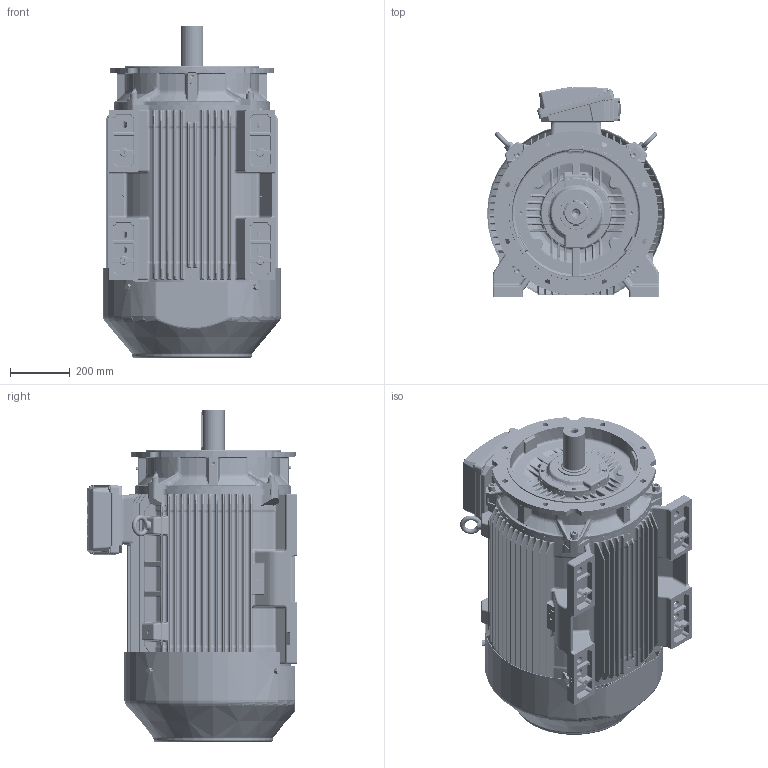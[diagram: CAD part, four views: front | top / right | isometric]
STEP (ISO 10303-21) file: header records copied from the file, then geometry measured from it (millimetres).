
FILE_DESCRIPTION (( 'STEP AP203' ), '1' );
FILE_NAME ('0228000590_RevC.STEP', '2019-04-18T06:56:27', ( '' ), ( '' ), 'SwSTEP 2.0', 'SolidWorks 2015', '' );
FILE_SCHEMA (( 'CONFIG_CONTROL_DESIGN' ));
Length unit declared in the file: inch
Products named in the file (1): 0228000590_RevC
Bounding box: 595 x 701.56 x 1110.5 mm (x, y, z)
Volume: 46788837.9 mm3; surface area: 8278626.3 mm2
Topology: 77 solids, 78 shells, 14300 faces, 35338 edges, 20770 vertices
Faces by surface type: cylinder 4604, bspline 3703, plane 2470, torus 1501, cone 1170, sphere 852
Entity records: 566900 total; most frequent: CARTESIAN_POINT 254710, ORIENTED_EDGE 69286, DIRECTION 62349, EDGE_CURVE 34643, AXIS2_PLACEMENT_3D 26240, VERTEX_POINT 20668, CIRCLE 15642, EDGE_LOOP 15487
